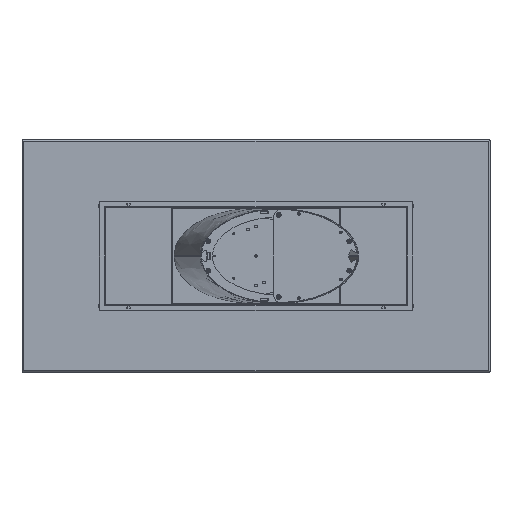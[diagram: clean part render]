
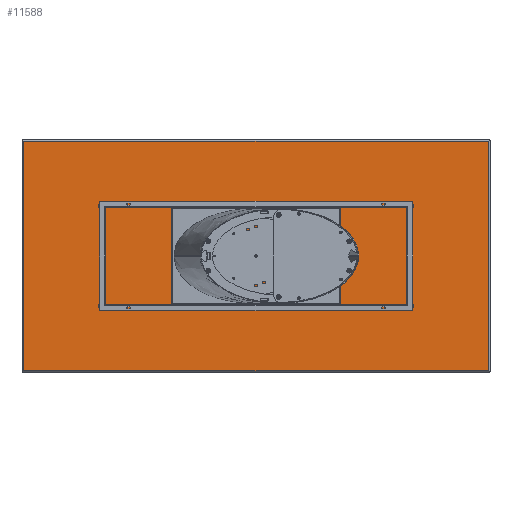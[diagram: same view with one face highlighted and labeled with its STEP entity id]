
A CAD part, front view. The second image highlights one B-rep face of the part: STEP entity #11588.
In plain terms, the highlighted planar face has unit normal (0, -1, 0).
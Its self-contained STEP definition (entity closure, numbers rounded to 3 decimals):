
#81 = DIRECTION ( 'NONE',  ( 1., 0., 0. ) ) ;
#895 = CARTESIAN_POINT ( 'NONE',  ( 1187., 0., -587. ) ) ;
#2936 = CARTESIAN_POINT ( 'NONE',  ( -1187., 0., 587. ) ) ;
#6312 = VERTEX_POINT ( 'NONE', #7626 ) ;
#7626 = CARTESIAN_POINT ( 'NONE',  ( -1187., 0., -587. ) ) ;
#8073 = FACE_OUTER_BOUND ( 'NONE', #24504, .T. ) ;
#9139 = AXIS2_PLACEMENT_3D ( 'NONE', #18723, #16252, #9978 ) ;
#9331 = CARTESIAN_POINT ( 'NONE',  ( 1187., 0., 0. ) ) ;
#9978 = DIRECTION ( 'NONE',  ( 0., 0., 1. ) ) ;
#10205 = VECTOR ( 'NONE', #25628, 1000. ) ;
#11518 = VECTOR ( 'NONE', #81, 1000. ) ;
#11588 = ADVANCED_FACE ( 'NONE', ( #8073 ), #22967, .F. ) ;
#12251 = CARTESIAN_POINT ( 'NONE',  ( -1187., 0., 0. ) ) ;
#12361 = VERTEX_POINT ( 'NONE', #2936 ) ;
#14248 = LINE ( 'NONE', #16156, #15426 ) ;
#14540 = CARTESIAN_POINT ( 'NONE',  ( 0., 0., -587. ) ) ;
#14919 = ORIENTED_EDGE ( 'NONE', *, *, #18689, .T. ) ;
#15426 = VECTOR ( 'NONE', #16295, 1000. ) ;
#16156 = CARTESIAN_POINT ( 'NONE',  ( 0., 0., 587. ) ) ;
#16252 = DIRECTION ( 'NONE',  ( 0., 1., 0. ) ) ;
#16295 = DIRECTION ( 'NONE',  ( -1., 0., 0. ) ) ;
#17094 = EDGE_CURVE ( 'NONE', #12361, #6312, #23897, .T. ) ;
#17243 = LINE ( 'NONE', #9331, #10205 ) ;
#17466 = ORIENTED_EDGE ( 'NONE', *, *, #17094, .T. ) ;
#17851 = EDGE_CURVE ( 'NONE', #21476, #24867, #17243, .T. ) ;
#18031 = VECTOR ( 'NONE', #20621, 1000. ) ;
#18689 = EDGE_CURVE ( 'NONE', #6312, #21476, #22906, .T. ) ;
#18723 = CARTESIAN_POINT ( 'NONE',  ( 0., 0., 0. ) ) ;
#20322 = EDGE_CURVE ( 'NONE', #24867, #12361, #14248, .T. ) ;
#20339 = ORIENTED_EDGE ( 'NONE', *, *, #20322, .T. ) ;
#20621 = DIRECTION ( 'NONE',  ( 0., 0., -1. ) ) ;
#21473 = CARTESIAN_POINT ( 'NONE',  ( 1187., 0., 587. ) ) ;
#21476 = VERTEX_POINT ( 'NONE', #895 ) ;
#21591 = ORIENTED_EDGE ( 'NONE', *, *, #17851, .T. ) ;
#22906 = LINE ( 'NONE', #14540, #11518 ) ;
#22967 = PLANE ( 'NONE',  #9139 ) ;
#23897 = LINE ( 'NONE', #12251, #18031 ) ;
#24504 = EDGE_LOOP ( 'NONE', ( #21591, #20339, #17466, #14919 ) ) ;
#24867 = VERTEX_POINT ( 'NONE', #21473 ) ;
#25628 = DIRECTION ( 'NONE',  ( 0., 0., 1. ) ) ;
